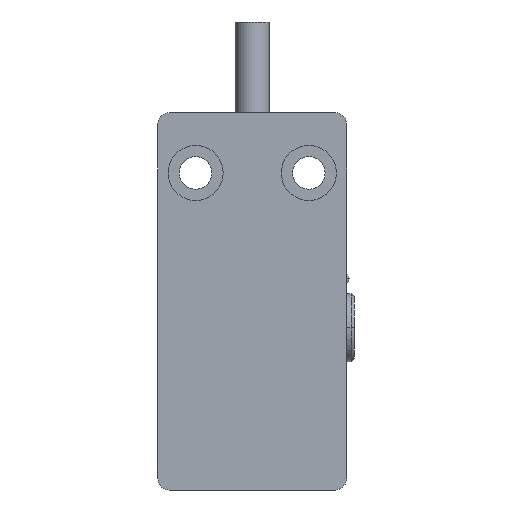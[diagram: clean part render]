
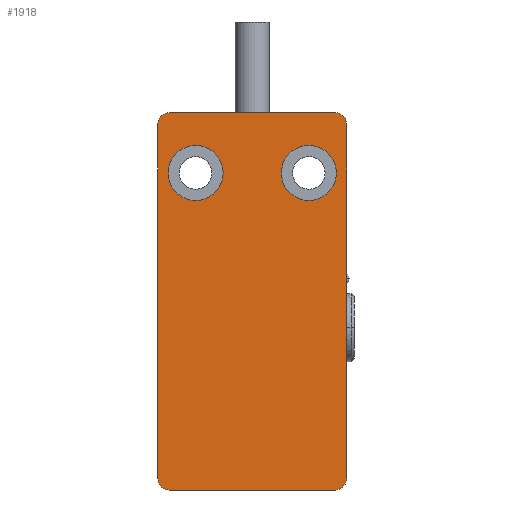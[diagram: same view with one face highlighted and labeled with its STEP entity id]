
A CAD part, front view. The second image highlights one B-rep face of the part: STEP entity #1918.
In plain terms, the highlighted planar face has unit normal (0, -1, 0).
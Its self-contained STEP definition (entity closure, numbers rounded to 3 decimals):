
#235=CARTESIAN_POINT('',(11.,-10.1,-1.5));
#236=DIRECTION('',(0.,-1.,0.));
#237=DIRECTION('',(1.,0.,0.));
#238=AXIS2_PLACEMENT_3D('',#235,#236,#237);
#297=CARTESIAN_POINT('',(11.,-10.1,-48.5));
#298=DIRECTION('',(0.,-1.,0.));
#299=DIRECTION('',(0.,0.,-1.));
#300=AXIS2_PLACEMENT_3D('',#297,#298,#299);
#327=CARTESIAN_POINT('',(-11.,-10.1,-48.5));
#328=DIRECTION('',(0.,-1.,0.));
#329=DIRECTION('',(-1.,0.,0.));
#330=AXIS2_PLACEMENT_3D('',#327,#328,#329);
#357=CARTESIAN_POINT('',(-11.,-10.1,-1.5));
#358=DIRECTION('',(0.,-1.,0.));
#359=DIRECTION('',(0.,0.,1.));
#360=AXIS2_PLACEMENT_3D('',#357,#358,#359);
#380=DIRECTION('',(0.,0.,1.));
#381=VECTOR('',#380,47.);
#382=CARTESIAN_POINT('',(12.5,-10.1,-48.5));
#383=LINE('',#382,#381);
#387=DIRECTION('',(1.,0.,0.));
#388=VECTOR('',#387,22.);
#389=CARTESIAN_POINT('',(-11.,-10.1,-50.));
#390=LINE('',#389,#388);
#394=DIRECTION('',(0.,0.,-1.));
#395=VECTOR('',#394,47.);
#396=CARTESIAN_POINT('',(-12.5,-10.1,-1.5));
#397=LINE('',#396,#395);
#401=DIRECTION('',(-1.,0.,0.));
#402=VECTOR('',#401,22.);
#403=CARTESIAN_POINT('',(11.,-10.1,0.));
#404=LINE('',#403,#402);
#408=CARTESIAN_POINT('',(-7.5,-10.1,-8.));
#409=DIRECTION('',(0.,-1.,0.));
#410=DIRECTION('',(1.,0.,0.));
#411=AXIS2_PLACEMENT_3D('',#408,#409,#410);
#416=CARTESIAN_POINT('',(-7.5,-10.1,-8.));
#417=DIRECTION('',(0.,-1.,0.));
#418=DIRECTION('',(-1.,0.,0.));
#419=AXIS2_PLACEMENT_3D('',#416,#417,#418);
#424=CARTESIAN_POINT('',(7.5,-10.1,-8.));
#425=DIRECTION('',(0.,-1.,0.));
#426=DIRECTION('',(1.,0.,0.));
#427=AXIS2_PLACEMENT_3D('',#424,#425,#426);
#432=CARTESIAN_POINT('',(7.5,-10.1,-8.));
#433=DIRECTION('',(0.,-1.,0.));
#434=DIRECTION('',(-1.,0.,0.));
#435=AXIS2_PLACEMENT_3D('',#432,#433,#434);
#1462=CARTESIAN_POINT('',(-3.85,-10.1,-8.));
#1463=CARTESIAN_POINT('',(-11.15,-10.1,-8.));
#1464=VERTEX_POINT('',#1462);
#1465=VERTEX_POINT('',#1463);
#1466=CARTESIAN_POINT('',(11.15,-10.1,-8.));
#1467=CARTESIAN_POINT('',(3.85,-10.1,-8.));
#1468=VERTEX_POINT('',#1466);
#1469=VERTEX_POINT('',#1467);
#1482=CARTESIAN_POINT('',(12.5,-10.1,-1.5));
#1484=VERTEX_POINT('',#1482);
#1486=CARTESIAN_POINT('',(11.,-10.1,0.));
#1487=VERTEX_POINT('',#1486);
#1490=CARTESIAN_POINT('',(-11.,-10.1,0.));
#1492=VERTEX_POINT('',#1490);
#1494=CARTESIAN_POINT('',(-12.5,-10.1,-1.5));
#1495=VERTEX_POINT('',#1494);
#1498=CARTESIAN_POINT('',(-12.5,-10.1,-48.5));
#1500=VERTEX_POINT('',#1498);
#1502=CARTESIAN_POINT('',(-11.,-10.1,-50.));
#1503=VERTEX_POINT('',#1502);
#1506=CARTESIAN_POINT('',(11.,-10.1,-50.));
#1508=VERTEX_POINT('',#1506);
#1510=CARTESIAN_POINT('',(12.5,-10.1,-48.5));
#1511=VERTEX_POINT('',#1510);
#1891=CARTESIAN_POINT('',(0.,-10.1,0.));
#1892=DIRECTION('',(0.,-1.,0.));
#1893=DIRECTION('',(1.,0.,0.));
#1894=AXIS2_PLACEMENT_3D('',#1891,#1892,#1893);
#1895=PLANE('',#1894);
#1896=ORIENTED_EDGE('',*,*,#1712,.F.);
#1897=ORIENTED_EDGE('',*,*,#1736,.F.);
#1898=ORIENTED_EDGE('',*,*,#1767,.F.);
#1899=ORIENTED_EDGE('',*,*,#1788,.F.);
#1900=ORIENTED_EDGE('',*,*,#1809,.F.);
#1901=ORIENTED_EDGE('',*,*,#1830,.F.);
#1902=ORIENTED_EDGE('',*,*,#1851,.F.);
#1903=ORIENTED_EDGE('',*,*,#1871,.F.);
#1904=EDGE_LOOP('',(#1896,#1897,#1898,#1899,#1900,#1901,#1902,#1903));
#1905=FACE_OUTER_BOUND('',#1904,.F.);
#1907=ORIENTED_EDGE('',*,*,#1906,.T.);
#1909=ORIENTED_EDGE('',*,*,#1908,.T.);
#1910=EDGE_LOOP('',(#1907,#1909));
#1911=FACE_BOUND('',#1910,.F.);
#1913=ORIENTED_EDGE('',*,*,#1912,.T.);
#1915=ORIENTED_EDGE('',*,*,#1914,.T.);
#1916=EDGE_LOOP('',(#1913,#1915));
#1917=FACE_BOUND('',#1916,.F.);
#239=CIRCLE('',#238,1.5);
#301=CIRCLE('',#300,1.5);
#331=CIRCLE('',#330,1.5);
#361=CIRCLE('',#360,1.5);
#412=CIRCLE('',#411,3.65);
#420=CIRCLE('',#419,3.65);
#428=CIRCLE('',#427,3.65);
#436=CIRCLE('',#435,3.65);
#1712=EDGE_CURVE('',#1484,#1487,#239,.T.);
#1736=EDGE_CURVE('',#1511,#1484,#383,.T.);
#1767=EDGE_CURVE('',#1508,#1511,#301,.T.);
#1788=EDGE_CURVE('',#1503,#1508,#390,.T.);
#1809=EDGE_CURVE('',#1500,#1503,#331,.T.);
#1830=EDGE_CURVE('',#1495,#1500,#397,.T.);
#1851=EDGE_CURVE('',#1492,#1495,#361,.T.);
#1871=EDGE_CURVE('',#1487,#1492,#404,.T.);
#1906=EDGE_CURVE('',#1464,#1465,#412,.T.);
#1908=EDGE_CURVE('',#1465,#1464,#420,.T.);
#1912=EDGE_CURVE('',#1468,#1469,#428,.T.);
#1914=EDGE_CURVE('',#1469,#1468,#436,.T.);
#1918=ADVANCED_FACE('',(#1905,#1911,#1917),#1895,.T.);
